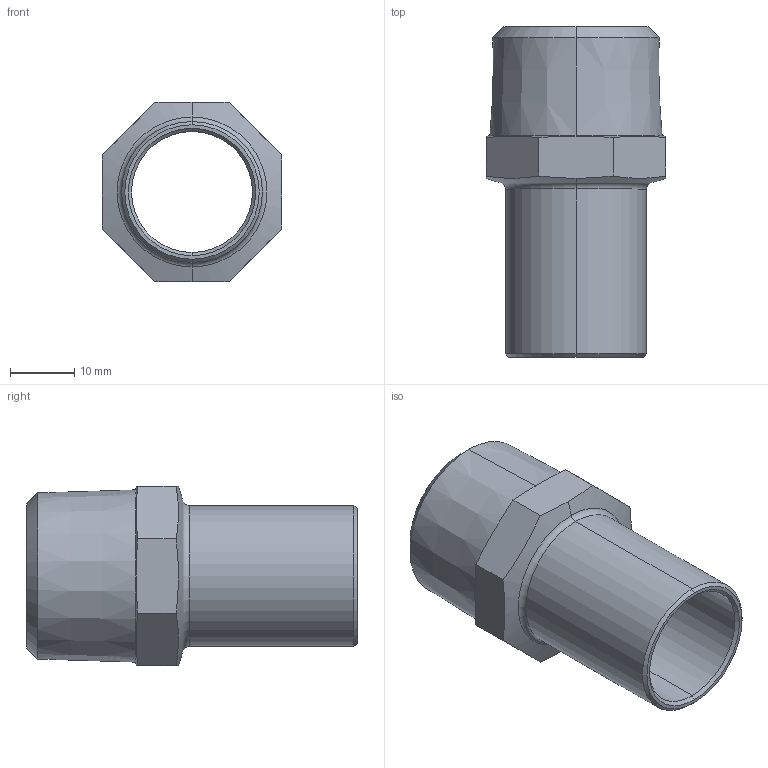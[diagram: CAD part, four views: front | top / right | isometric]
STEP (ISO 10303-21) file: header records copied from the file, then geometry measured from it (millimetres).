
FILE_DESCRIPTION (( 'STEP AP203' ), '1' );
FILE_NAME ('SP4280G Ø22 3-4.STEP', '2017-04-26T09:07:33', ( '' ), ( '' ), 'SwSTEP 2.0', 'SolidWorks 2016', '' );
FILE_SCHEMA (( 'CONFIG_CONTROL_DESIGN' ));
Length unit declared in the file: millimetre
Products named in the file (1): SP4280G Ø22 3-4
Bounding box: 28 x 51.6 x 28 mm (x, y, z)
Volume: 9019.9 mm3; surface area: 7548.1 mm2
Topology: 1 solids, 1 shells, 34 faces, 78 edges, 46 vertices
Faces by surface type: cone 16, plane 10, cylinder 6, torus 2
Entity records: 1071 total; most frequent: CARTESIAN_POINT 243, DIRECTION 156, ORIENTED_EDGE 156, EDGE_CURVE 78, AXIS2_PLACEMENT_3D 63, VERTEX_POINT 46, EDGE_LOOP 36, ADVANCED_FACE 34
